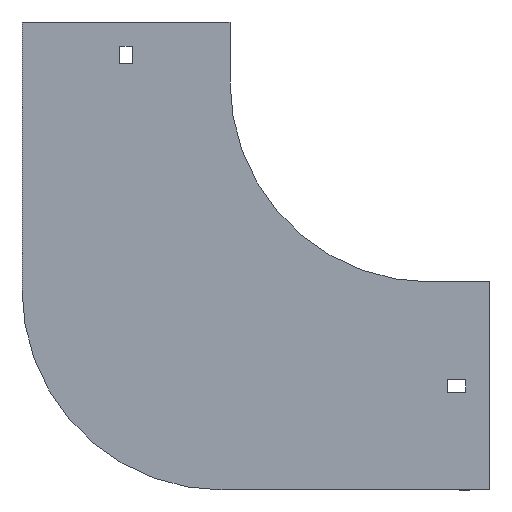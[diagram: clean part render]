
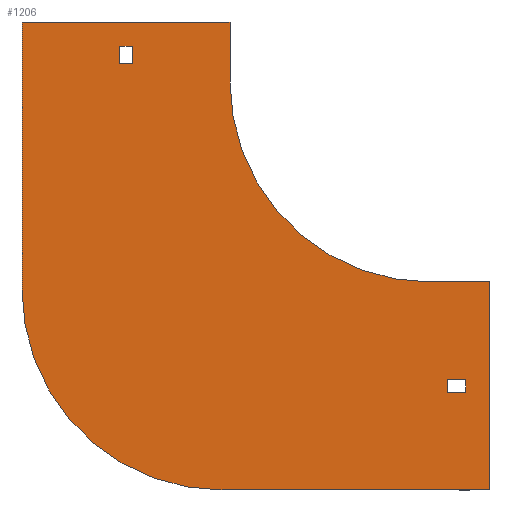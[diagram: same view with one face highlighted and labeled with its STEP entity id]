
A CAD part, front view. The second image highlights one B-rep face of the part: STEP entity #1206.
In plain terms, the highlighted planar face has unit normal (0, -1, 0).
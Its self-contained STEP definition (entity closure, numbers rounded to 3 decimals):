
#3 = VERTEX_POINT ( 'NONE', #96 ) ;
#21 = CARTESIAN_POINT ( 'NONE',  ( 30., 0., -204. ) ) ;
#22 = ORIENTED_EDGE ( 'NONE', *, *, #900, .F. ) ;
#30 = CARTESIAN_POINT ( 'NONE',  ( 9., 0., -155.25 ) ) ;
#41 = ORIENTED_EDGE ( 'NONE', *, *, #1704, .F. ) ;
#51 = CARTESIAN_POINT ( 'NONE',  ( -148.75, 0., 18. ) ) ;
#55 = VERTEX_POINT ( 'NONE', #267 ) ;
#74 = VERTEX_POINT ( 'NONE', #1639 ) ;
#96 = CARTESIAN_POINT ( 'NONE',  ( -148.75, 0., 9. ) ) ;
#121 = CARTESIAN_POINT ( 'NONE',  ( 0., 0., -100. ) ) ;
#125 = ORIENTED_EDGE ( 'NONE', *, *, #475, .F. ) ;
#159 = EDGE_CURVE ( 'NONE', #503, #179, #336, .T. ) ;
#164 = ORIENTED_EDGE ( 'NONE', *, *, #1507, .F. ) ;
#170 = EDGE_CURVE ( 'NONE', #55, #243, #621, .T. ) ;
#172 = VECTOR ( 'NONE', #856, 1000. ) ;
#179 = VERTEX_POINT ( 'NONE', #1568 ) ;
#197 = ORIENTED_EDGE ( 'NONE', *, *, #159, .F. ) ;
#236 = DIRECTION ( 'NONE',  ( 0., 0., -1. ) ) ;
#243 = VERTEX_POINT ( 'NONE', #1041 ) ;
#261 = ORIENTED_EDGE ( 'NONE', *, *, #170, .T. ) ;
#267 = CARTESIAN_POINT ( 'NONE',  ( -155.25, 0., 9. ) ) ;
#278 = LINE ( 'NONE', #121, #172 ) ;
#302 = LINE ( 'NONE', #30, #989 ) ;
#336 = CIRCLE ( 'NONE', #1252, 100. ) ;
#338 = VERTEX_POINT ( 'NONE', #51 ) ;
#342 = EDGE_CURVE ( 'NONE', #3, #55, #1691, .T. ) ;
#349 = EDGE_LOOP ( 'NONE', ( #261, #711, #603, #362 ) ) ;
#354 = EDGE_CURVE ( 'NONE', #243, #338, #1515, .T. ) ;
#362 = ORIENTED_EDGE ( 'NONE', *, *, #342, .T. ) ;
#377 = VECTOR ( 'NONE', #1155, 1000. ) ;
#382 = DIRECTION ( 'NONE',  ( 0., -1., 0. ) ) ;
#390 = VECTOR ( 'NONE', #1681, 1000. ) ;
#391 = VECTOR ( 'NONE', #633, 1000. ) ;
#410 = VECTOR ( 'NONE', #491, 1000. ) ;
#413 = LINE ( 'NONE', #1337, #643 ) ;
#467 = LINE ( 'NONE', #511, #695 ) ;
#469 = CARTESIAN_POINT ( 'NONE',  ( -100., 0., 0. ) ) ;
#470 = CARTESIAN_POINT ( 'NONE',  ( -155.25, 0., 9. ) ) ;
#475 = EDGE_CURVE ( 'NONE', #1687, #685, #619, .T. ) ;
#484 = EDGE_CURVE ( 'NONE', #536, #490, #302, .T. ) ;
#487 = EDGE_CURVE ( 'NONE', #1594, #1395, #1222, .T. ) ;
#490 = VERTEX_POINT ( 'NONE', #1793 ) ;
#491 = DIRECTION ( 'NONE',  ( 0., 0., 1. ) ) ;
#503 = VERTEX_POINT ( 'NONE', #469 ) ;
#511 = CARTESIAN_POINT ( 'NONE',  ( -100., 0., 30. ) ) ;
#535 = FACE_BOUND ( 'NONE', #349, .T. ) ;
#536 = VERTEX_POINT ( 'NONE', #609 ) ;
#572 = EDGE_CURVE ( 'NONE', #685, #1003, #1062, .T. ) ;
#585 = AXIS2_PLACEMENT_3D ( 'NONE', #1847, #382, #236 ) ;
#590 = CARTESIAN_POINT ( 'NONE',  ( -204., 0., 30. ) ) ;
#603 = ORIENTED_EDGE ( 'NONE', *, *, #747, .T. ) ;
#609 = CARTESIAN_POINT ( 'NONE',  ( 9., 0., -155.25 ) ) ;
#619 = LINE ( 'NONE', #1371, #410 ) ;
#621 = LINE ( 'NONE', #470, #390 ) ;
#633 = DIRECTION ( 'NONE',  ( 1., 0., 0. ) ) ;
#643 = VECTOR ( 'NONE', #1623, 1000. ) ;
#666 = ORIENTED_EDGE ( 'NONE', *, *, #1650, .F. ) ;
#685 = VERTEX_POINT ( 'NONE', #590 ) ;
#695 = VECTOR ( 'NONE', #1116, 1000. ) ;
#711 = ORIENTED_EDGE ( 'NONE', *, *, #354, .T. ) ;
#722 = ORIENTED_EDGE ( 'NONE', *, *, #1036, .F. ) ;
#732 = VECTOR ( 'NONE', #1212, 1000. ) ;
#747 = EDGE_CURVE ( 'NONE', #338, #3, #1569, .T. ) ;
#775 = LINE ( 'NONE', #21, #1834 ) ;
#780 = CARTESIAN_POINT ( 'NONE',  ( 9., 0., -148.75 ) ) ;
#804 = CARTESIAN_POINT ( 'NONE',  ( -204., 0., 30. ) ) ;
#823 = CARTESIAN_POINT ( 'NONE',  ( -148.75, 0., 9. ) ) ;
#828 = VECTOR ( 'NONE', #1540, 1000. ) ;
#829 = CARTESIAN_POINT ( 'NONE',  ( 9., 0., -155.25 ) ) ;
#853 = ORIENTED_EDGE ( 'NONE', *, *, #572, .F. ) ;
#856 = DIRECTION ( 'NONE',  ( 1., 0., 0. ) ) ;
#863 = ORIENTED_EDGE ( 'NONE', *, *, #946, .F. ) ;
#893 = DIRECTION ( 'NONE',  ( 1., 0., 0. ) ) ;
#900 = EDGE_CURVE ( 'NONE', #1282, #965, #413, .T. ) ;
#946 = EDGE_CURVE ( 'NONE', #965, #74, #775, .T. ) ;
#965 = VERTEX_POINT ( 'NONE', #1071 ) ;
#969 = ORIENTED_EDGE ( 'NONE', *, *, #487, .F. ) ;
#989 = VECTOR ( 'NONE', #893, 1000. ) ;
#1003 = VERTEX_POINT ( 'NONE', #1475 ) ;
#1004 = EDGE_LOOP ( 'NONE', ( #722, #1462, #666, #969 ) ) ;
#1022 = EDGE_CURVE ( 'NONE', #179, #1282, #278, .T. ) ;
#1036 = EDGE_CURVE ( 'NONE', #490, #1594, #1894, .T. ) ;
#1041 = CARTESIAN_POINT ( 'NONE',  ( -155.25, 0., 18. ) ) ;
#1062 = LINE ( 'NONE', #804, #828 ) ;
#1071 = CARTESIAN_POINT ( 'NONE',  ( 30., 0., -204. ) ) ;
#1103 = CARTESIAN_POINT ( 'NONE',  ( -155.25, 0., 9. ) ) ;
#1111 = DIRECTION ( 'NONE',  ( 0., -1., 0. ) ) ;
#1116 = DIRECTION ( 'NONE',  ( 0., 0., -1. ) ) ;
#1141 = DIRECTION ( 'NONE',  ( 0., 0., -1. ) ) ;
#1155 = DIRECTION ( 'NONE',  ( 0., 0., -1. ) ) ;
#1170 = CARTESIAN_POINT ( 'NONE',  ( 18., 0., -155.25 ) ) ;
#1186 = CARTESIAN_POINT ( 'NONE',  ( -204., 0., -104. ) ) ;
#1206 = ADVANCED_FACE ( 'NONE', ( #535, #1278, #1729 ), #1256, .T. ) ;
#1212 = DIRECTION ( 'NONE',  ( -1., 0., 0. ) ) ;
#1218 = DIRECTION ( 'NONE',  ( 0., 1., 0. ) ) ;
#1222 = LINE ( 'NONE', #780, #732 ) ;
#1252 = AXIS2_PLACEMENT_3D ( 'NONE', #1383, #1111, #1699 ) ;
#1256 = PLANE ( 'NONE',  #585 ) ;
#1278 = FACE_OUTER_BOUND ( 'NONE', #1378, .T. ) ;
#1282 = VERTEX_POINT ( 'NONE', #1513 ) ;
#1337 = CARTESIAN_POINT ( 'NONE',  ( 30., 0., -100. ) ) ;
#1345 = VECTOR ( 'NONE', #1682, 1000. ) ;
#1371 = CARTESIAN_POINT ( 'NONE',  ( -204., 0., -104. ) ) ;
#1374 = CARTESIAN_POINT ( 'NONE',  ( -155.25, 0., 18. ) ) ;
#1378 = EDGE_LOOP ( 'NONE', ( #853, #125, #41, #863, #22, #1840, #197, #164 ) ) ;
#1383 = CARTESIAN_POINT ( 'NONE',  ( 0., 0., 0. ) ) ;
#1391 = AXIS2_PLACEMENT_3D ( 'NONE', #1490, #1218, #1781 ) ;
#1395 = VERTEX_POINT ( 'NONE', #1895 ) ;
#1462 = ORIENTED_EDGE ( 'NONE', *, *, #484, .F. ) ;
#1475 = CARTESIAN_POINT ( 'NONE',  ( -100., 0., 30. ) ) ;
#1490 = CARTESIAN_POINT ( 'NONE',  ( -104., 0., -104. ) ) ;
#1507 = EDGE_CURVE ( 'NONE', #1003, #503, #467, .T. ) ;
#1513 = CARTESIAN_POINT ( 'NONE',  ( 30., 0., -100. ) ) ;
#1515 = LINE ( 'NONE', #1374, #391 ) ;
#1540 = DIRECTION ( 'NONE',  ( 1., 0., 0. ) ) ;
#1568 = CARTESIAN_POINT ( 'NONE',  ( 0., 0., -100. ) ) ;
#1569 = LINE ( 'NONE', #823, #1926 ) ;
#1594 = VERTEX_POINT ( 'NONE', #1741 ) ;
#1619 = DIRECTION ( 'NONE',  ( 0., 0., 1. ) ) ;
#1620 = VECTOR ( 'NONE', #1619, 1000. ) ;
#1623 = DIRECTION ( 'NONE',  ( 0., 0., -1. ) ) ;
#1639 = CARTESIAN_POINT ( 'NONE',  ( -104., 0., -204. ) ) ;
#1650 = EDGE_CURVE ( 'NONE', #1395, #536, #1898, .T. ) ;
#1671 = DIRECTION ( 'NONE',  ( -1., 0., 0. ) ) ;
#1681 = DIRECTION ( 'NONE',  ( 0., 0., 1. ) ) ;
#1682 = DIRECTION ( 'NONE',  ( -1., 0., 0. ) ) ;
#1687 = VERTEX_POINT ( 'NONE', #1186 ) ;
#1691 = LINE ( 'NONE', #1103, #1345 ) ;
#1699 = DIRECTION ( 'NONE',  ( 0., 0., -1. ) ) ;
#1704 = EDGE_CURVE ( 'NONE', #74, #1687, #1726, .T. ) ;
#1726 = CIRCLE ( 'NONE', #1391, 100. ) ;
#1729 = FACE_BOUND ( 'NONE', #1004, .T. ) ;
#1741 = CARTESIAN_POINT ( 'NONE',  ( 18., 0., -148.75 ) ) ;
#1781 = DIRECTION ( 'NONE',  ( 0., 0., 1. ) ) ;
#1793 = CARTESIAN_POINT ( 'NONE',  ( 18., 0., -155.25 ) ) ;
#1834 = VECTOR ( 'NONE', #1671, 1000. ) ;
#1840 = ORIENTED_EDGE ( 'NONE', *, *, #1022, .F. ) ;
#1847 = CARTESIAN_POINT ( 'NONE',  ( 0., 0., 0. ) ) ;
#1894 = LINE ( 'NONE', #1170, #1620 ) ;
#1895 = CARTESIAN_POINT ( 'NONE',  ( 9., 0., -148.75 ) ) ;
#1898 = LINE ( 'NONE', #829, #377 ) ;
#1926 = VECTOR ( 'NONE', #1141, 1000. ) ;
